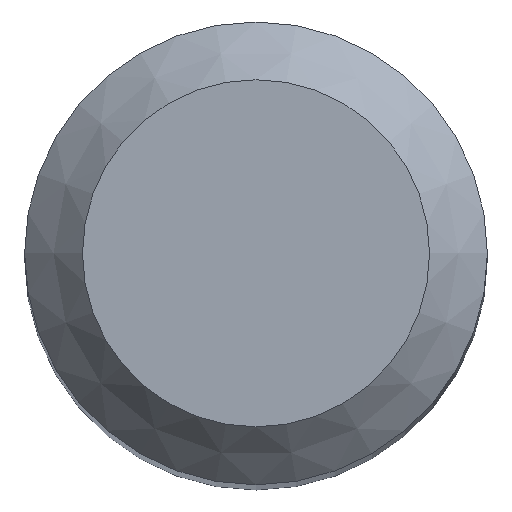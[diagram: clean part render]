
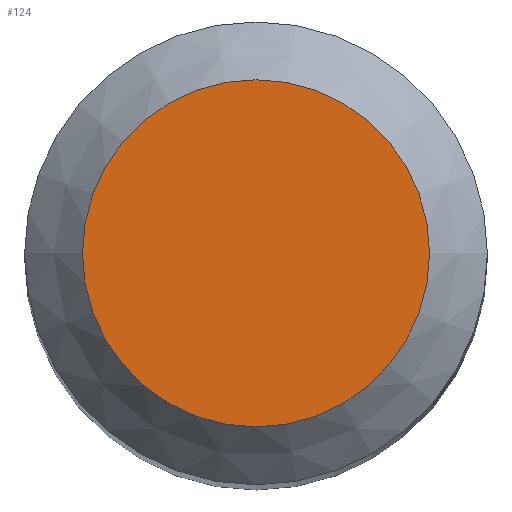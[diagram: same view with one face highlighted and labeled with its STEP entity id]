
A CAD part, top view. The second image highlights one B-rep face of the part: STEP entity #124.
In plain terms, the highlighted planar face has unit normal (0, 0, 1).
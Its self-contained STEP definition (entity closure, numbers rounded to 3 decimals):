
#108=CARTESIAN_POINT('',(1.5,0.0,40.0));
#109=DIRECTION('',(0.0,0.0,1.0));
#110=DIRECTION('',(1.0,0.0,0.0));
#111=AXIS2_PLACEMENT_3D('',#108,#109,#110);
#112=PLANE('',#111);
#113=CARTESIAN_POINT('',(-1.5,0.0,40.0));
#114=VERTEX_POINT('',#113);
#115=CARTESIAN_POINT('',(0.0,0.0,40.0));
#116=DIRECTION('',(0.0,0.0,-1.0));
#117=DIRECTION('',(-1.0,0.0,0.0));
#118=AXIS2_PLACEMENT_3D('',#115,#116,#117);
#119=CIRCLE('',#118,1.5);
#120=EDGE_CURVE('',#114,#114,#119,.T.);
#121=ORIENTED_EDGE('',*,*,#120,.F.);
#122=EDGE_LOOP('',(#121));
#123=FACE_OUTER_BOUND('',#122,.T.);
#124=ADVANCED_FACE('',(#123),#112,.T.);
